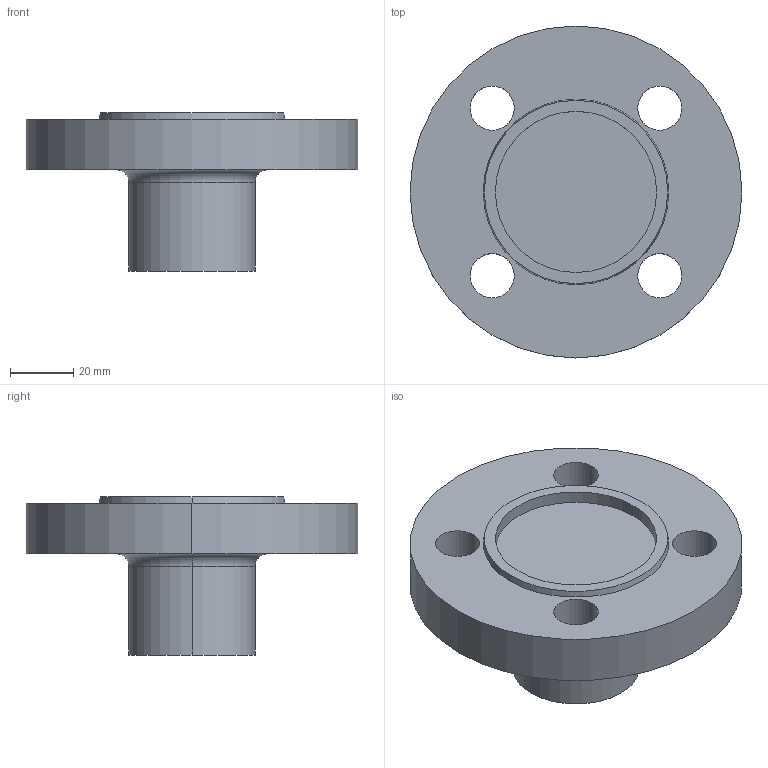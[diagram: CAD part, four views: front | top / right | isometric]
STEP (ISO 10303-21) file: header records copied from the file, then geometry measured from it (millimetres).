
FILE_DESCRIPTION (( 'STEP AP214' ), '1' );
FILE_NAME ('PN40 DN20 Type 21(i) - Type F Face.STEP', '2018-12-29T16:21:46', ( '' ), ( '' ), 'SwSTEP 2.0', 'SolidWorks 2019', '' );
FILE_SCHEMA (( 'AUTOMOTIVE_DESIGN' ));
Length unit declared in the file: millimetre
Products named in the file (1): PN40 DN20 Type 21(i) - Type F Face
Bounding box: 105 x 105 x 50 mm (x, y, z)
Volume: 166532.7 mm3; surface area: 28940.4 mm2
Topology: 1 solids, 1 shells, 23 faces, 52 edges, 34 vertices
Faces by surface type: cylinder 14, plane 5, torus 2, cone 2
Entity records: 716 total; most frequent: DIRECTION 136, CARTESIAN_POINT 110, ORIENTED_EDGE 104, AXIS2_PLACEMENT_3D 60, EDGE_CURVE 52, CIRCLE 36, EDGE_LOOP 34, VERTEX_POINT 34
